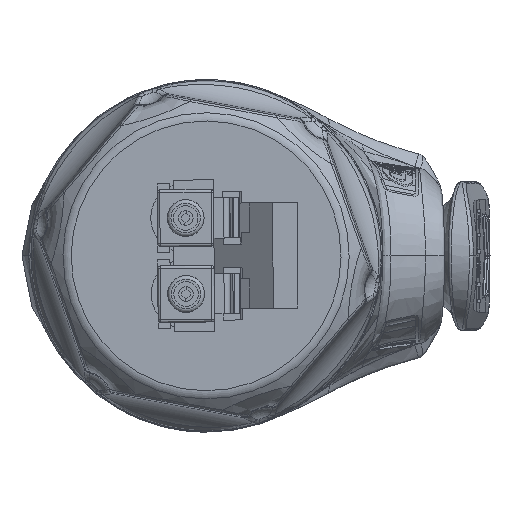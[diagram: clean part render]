
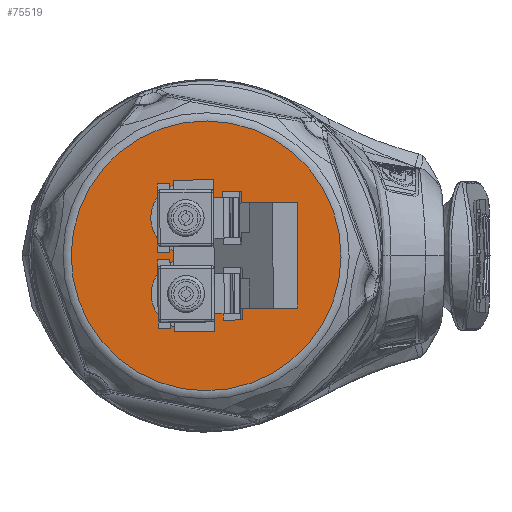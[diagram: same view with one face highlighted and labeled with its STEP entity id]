
A CAD part, left-side view. The second image highlights one B-rep face of the part: STEP entity #75519.
In plain terms, the highlighted planar face has unit normal (-1, 0, 0).
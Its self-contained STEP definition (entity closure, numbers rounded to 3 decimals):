
#1793 = CIRCLE ( 'NONE', #93836, 1.25 ) ;
#3095 = ORIENTED_EDGE ( 'NONE', *, *, #74104, .F. ) ;
#11570 = EDGE_CURVE ( 'NONE', #14474, #14474, #103219, .T. ) ;
#14474 = VERTEX_POINT ( 'NONE', #104400 ) ;
#14644 = DIRECTION ( 'NONE',  ( 0., -0.334, -0.943 ) ) ;
#22052 = DIRECTION ( 'NONE',  ( 0., 0., -1. ) ) ;
#22711 = CARTESIAN_POINT ( 'NONE',  ( -59.321, 0., 0. ) ) ;
#23078 = ORIENTED_EDGE ( 'NONE', *, *, #11570, .T. ) ;
#28424 = ORIENTED_EDGE ( 'NONE', *, *, #88919, .F. ) ;
#29043 = CARTESIAN_POINT ( 'NONE',  ( -59.321, 1.632, -3.109 ) ) ;
#30522 = CIRCLE ( 'NONE', #63697, 1.25 ) ;
#31835 = PLANE ( 'NONE',  #40476 ) ;
#36172 = EDGE_LOOP ( 'NONE', ( #23078 ) ) ;
#39309 = CARTESIAN_POINT ( 'NONE',  ( -59.321, 2.998, -7.255 ) ) ;
#39522 = CARTESIAN_POINT ( 'NONE',  ( -59.321, 1.668, 3.091 ) ) ;
#40463 = FACE_BOUND ( 'NONE', #64788, .T. ) ;
#40476 = AXIS2_PLACEMENT_3D ( 'NONE', #39309, #66987, #41601 ) ;
#41601 = DIRECTION ( 'NONE',  ( 0., -0.924, -0.382 ) ) ;
#61023 = AXIS2_PLACEMENT_3D ( 'NONE', #22711, #75781, #14644 ) ;
#61695 = VERTEX_POINT ( 'NONE', #96900 ) ;
#63697 = AXIS2_PLACEMENT_3D ( 'NONE', #39522, #101245, #100091 ) ;
#64788 = EDGE_LOOP ( 'NONE', ( #3095 ) ) ;
#65894 = DIRECTION ( 'NONE',  ( -1., 0., 0. ) ) ;
#66987 = DIRECTION ( 'NONE',  ( 1., 0., 0. ) ) ;
#74104 = EDGE_CURVE ( 'NONE', #61695, #61695, #1793, .T. ) ;
#75519 = ADVANCED_FACE ( 'NONE', ( #110287, #110878, #40463 ), #31835, .F. ) ;
#75781 = DIRECTION ( 'NONE',  ( -1., 0., 0. ) ) ;
#81293 = CARTESIAN_POINT ( 'NONE',  ( -59.321, 1.668, 1.841 ) ) ;
#88919 = EDGE_CURVE ( 'NONE', #109536, #109536, #30522, .T. ) ;
#93836 = AXIS2_PLACEMENT_3D ( 'NONE', #29043, #65894, #22052 ) ;
#95776 = EDGE_LOOP ( 'NONE', ( #28424 ) ) ;
#96900 = CARTESIAN_POINT ( 'NONE',  ( -59.321, 1.632, -4.359 ) ) ;
#100091 = DIRECTION ( 'NONE',  ( 0., 0., -1. ) ) ;
#101245 = DIRECTION ( 'NONE',  ( -1., 0., 0. ) ) ;
#103219 = CIRCLE ( 'NONE', #61023, 11.016 ) ;
#104400 = CARTESIAN_POINT ( 'NONE',  ( -59.321, -3.675, -10.385 ) ) ;
#109536 = VERTEX_POINT ( 'NONE', #81293 ) ;
#110287 = FACE_BOUND ( 'NONE', #95776, .T. ) ;
#110878 = FACE_OUTER_BOUND ( 'NONE', #36172, .T. ) ;
